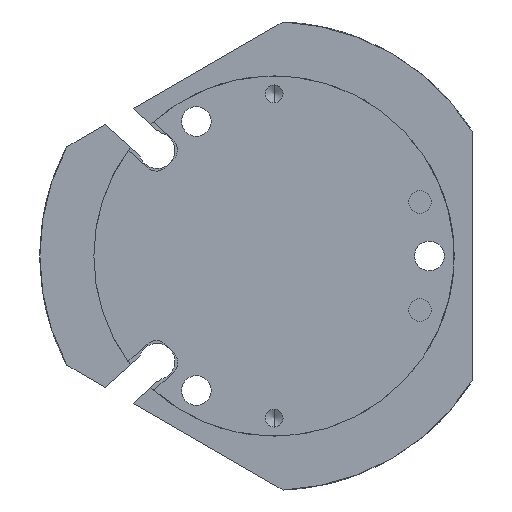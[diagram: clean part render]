
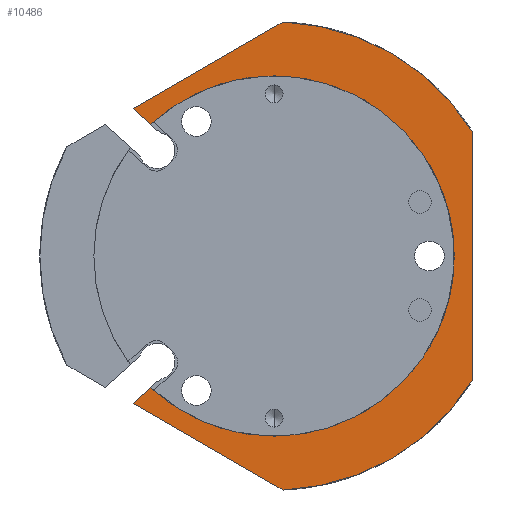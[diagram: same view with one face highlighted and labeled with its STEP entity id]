
A CAD part, front view. The second image highlights one B-rep face of the part: STEP entity #10486.
In plain terms, the highlighted planar face has unit normal (0, -1, 0).
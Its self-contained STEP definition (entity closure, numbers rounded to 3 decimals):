
#70 = VERTEX_POINT ( 'NONE', #11982 ) ;
#408 = LINE ( 'NONE', #15370, #8475 ) ;
#640 = CARTESIAN_POINT ( 'NONE',  ( 0., -13.5, -20. ) ) ;
#696 = CARTESIAN_POINT ( 'NONE',  ( -13.672, -13.5, -14.598 ) ) ;
#781 = AXIS2_PLACEMENT_3D ( 'NONE', #1363, #2675, #13490 ) ;
#965 = VERTEX_POINT ( 'NONE', #696 ) ;
#987 = DIRECTION ( 'NONE',  ( 0., 0., -1. ) ) ;
#1040 = DIRECTION ( 'NONE',  ( -0.866, 0., -0.5 ) ) ;
#1225 = VERTEX_POINT ( 'NONE', #10477 ) ;
#1287 = CARTESIAN_POINT ( 'NONE',  ( -15.643, -13.5, 16.372 ) ) ;
#1363 = CARTESIAN_POINT ( 'NONE',  ( 0., -13.5, 0. ) ) ;
#1536 = EDGE_LOOP ( 'NONE', ( #10330, #3220, #12584, #6199, #5785, #14587, #7127, #11656, #8673, #10871 ) ) ;
#1784 = VERTEX_POINT ( 'NONE', #1988 ) ;
#1835 = DIRECTION ( 'NONE',  ( 0., -1., 0. ) ) ;
#1917 = VERTEX_POINT ( 'NONE', #7802 ) ;
#1934 = CIRCLE ( 'NONE', #10062, 20. ) ;
#1988 = CARTESIAN_POINT ( 'NONE',  ( 0., -13.5, 20. ) ) ;
#2217 = VERTEX_POINT ( 'NONE', #1287 ) ;
#2326 = VECTOR ( 'NONE', #14275, 1000. ) ;
#2668 = LINE ( 'NONE', #12626, #10171 ) ;
#2675 = DIRECTION ( 'NONE',  ( 0., -1., 0. ) ) ;
#2711 = VECTOR ( 'NONE', #14658, 1000. ) ;
#2800 = CIRCLE ( 'NONE', #11889, 26. ) ;
#2825 = AXIS2_PLACEMENT_3D ( 'NONE', #6500, #5260, #13728 ) ;
#3191 = CARTESIAN_POINT ( 'NONE',  ( -12.65, -13.5, -13.678 ) ) ;
#3220 = ORIENTED_EDGE ( 'NONE', *, *, #6777, .T. ) ;
#3229 = CIRCLE ( 'NONE', #2825, 20. ) ;
#3470 = LINE ( 'NONE', #13399, #2711 ) ;
#3768 = EDGE_CURVE ( 'NONE', #12517, #1784, #3229, .T. ) ;
#3809 = CIRCLE ( 'NONE', #781, 20. ) ;
#4255 = CARTESIAN_POINT ( 'NONE',  ( 22., -13.5, 13.856 ) ) ;
#4338 = DIRECTION ( 'NONE',  ( 0., 0., 1. ) ) ;
#4525 = EDGE_CURVE ( 'NONE', #6113, #12144, #14372, .T. ) ;
#4528 = VERTEX_POINT ( 'NONE', #4255 ) ;
#4830 = DIRECTION ( 'NONE',  ( 0., -1., 0. ) ) ;
#5260 = DIRECTION ( 'NONE',  ( 0., -1., 0. ) ) ;
#5509 = DIRECTION ( 'NONE',  ( 0.866, 0., -0.5 ) ) ;
#5785 = ORIENTED_EDGE ( 'NONE', *, *, #3768, .F. ) ;
#6113 = VERTEX_POINT ( 'NONE', #12232 ) ;
#6199 = ORIENTED_EDGE ( 'NONE', *, *, #6201, .F. ) ;
#6201 = EDGE_CURVE ( 'NONE', #1784, #1917, #3809, .T. ) ;
#6500 = CARTESIAN_POINT ( 'NONE',  ( 0., -13.5, 0. ) ) ;
#6556 = EDGE_CURVE ( 'NONE', #1225, #965, #12810, .T. ) ;
#6777 = EDGE_CURVE ( 'NONE', #70, #2217, #408, .T. ) ;
#7013 = CARTESIAN_POINT ( 'NONE',  ( 0., -13.5, 0. ) ) ;
#7127 = ORIENTED_EDGE ( 'NONE', *, *, #6556, .F. ) ;
#7683 = DIRECTION ( 'NONE',  ( 0., 0., 1. ) ) ;
#7802 = CARTESIAN_POINT ( 'NONE',  ( -13.672, -13.5, 14.598 ) ) ;
#8335 = DIRECTION ( 'NONE',  ( 0., -1., 0. ) ) ;
#8475 = VECTOR ( 'NONE', #1040, 1000. ) ;
#8673 = ORIENTED_EDGE ( 'NONE', *, *, #4525, .T. ) ;
#9029 = VECTOR ( 'NONE', #14002, 1000. ) ;
#9040 = CARTESIAN_POINT ( 'NONE',  ( 0., -13.5, 0. ) ) ;
#9838 = EDGE_CURVE ( 'NONE', #965, #12517, #1934, .T. ) ;
#9872 = CARTESIAN_POINT ( 'NONE',  ( 22., -13.5, -13.856 ) ) ;
#10062 = AXIS2_PLACEMENT_3D ( 'NONE', #7013, #8335, #987 ) ;
#10171 = VECTOR ( 'NONE', #5509, 1000. ) ;
#10203 = EDGE_CURVE ( 'NONE', #1225, #6113, #2668, .T. ) ;
#10330 = ORIENTED_EDGE ( 'NONE', *, *, #10981, .T. ) ;
#10477 = CARTESIAN_POINT ( 'NONE',  ( -15.643, -13.5, -16.372 ) ) ;
#10486 = ADVANCED_FACE ( 'NONE', ( #10734 ), #13100, .T. ) ;
#10734 = FACE_OUTER_BOUND ( 'NONE', #1536, .T. ) ;
#10871 = ORIENTED_EDGE ( 'NONE', *, *, #14186, .T. ) ;
#10981 = EDGE_CURVE ( 'NONE', #4528, #70, #2800, .T. ) ;
#11656 = ORIENTED_EDGE ( 'NONE', *, *, #10203, .T. ) ;
#11889 = AXIS2_PLACEMENT_3D ( 'NONE', #15175, #1835, #4338 ) ;
#11903 = LINE ( 'NONE', #13233, #2326 ) ;
#11982 = CARTESIAN_POINT ( 'NONE',  ( 1., -13.5, 25.981 ) ) ;
#12144 = VERTEX_POINT ( 'NONE', #9872 ) ;
#12232 = CARTESIAN_POINT ( 'NONE',  ( 1., -13.5, -25.981 ) ) ;
#12517 = VERTEX_POINT ( 'NONE', #640 ) ;
#12584 = ORIENTED_EDGE ( 'NONE', *, *, #14705, .T. ) ;
#12626 = CARTESIAN_POINT ( 'NONE',  ( -15.643, -13.5, -16.372 ) ) ;
#12810 = LINE ( 'NONE', #3191, #9029 ) ;
#13100 = PLANE ( 'NONE',  #15401 ) ;
#13233 = CARTESIAN_POINT ( 'NONE',  ( -15.643, -13.5, 16.372 ) ) ;
#13399 = CARTESIAN_POINT ( 'NONE',  ( 22., -13.5, 0. ) ) ;
#13490 = DIRECTION ( 'NONE',  ( 0., 0., -1. ) ) ;
#13728 = DIRECTION ( 'NONE',  ( 0., 0., -1. ) ) ;
#14002 = DIRECTION ( 'NONE',  ( 0.743, 0., 0.669 ) ) ;
#14186 = EDGE_CURVE ( 'NONE', #12144, #4528, #3470, .T. ) ;
#14247 = CARTESIAN_POINT ( 'NONE',  ( 0., -13.5, 0. ) ) ;
#14275 = DIRECTION ( 'NONE',  ( 0.743, 0., -0.669 ) ) ;
#14372 = CIRCLE ( 'NONE', #14649, 26. ) ;
#14587 = ORIENTED_EDGE ( 'NONE', *, *, #9838, .F. ) ;
#14649 = AXIS2_PLACEMENT_3D ( 'NONE', #9040, #15029, #7683 ) ;
#14658 = DIRECTION ( 'NONE',  ( 0., 0., 1. ) ) ;
#14705 = EDGE_CURVE ( 'NONE', #2217, #1917, #11903, .T. ) ;
#15029 = DIRECTION ( 'NONE',  ( 0., -1., 0. ) ) ;
#15175 = CARTESIAN_POINT ( 'NONE',  ( 0., -13.5, 0. ) ) ;
#15370 = CARTESIAN_POINT ( 'NONE',  ( 1., -13.5, 25.981 ) ) ;
#15401 = AXIS2_PLACEMENT_3D ( 'NONE', #14247, #4830, #15448 ) ;
#15448 = DIRECTION ( 'NONE',  ( 0., 0., -1. ) ) ;
